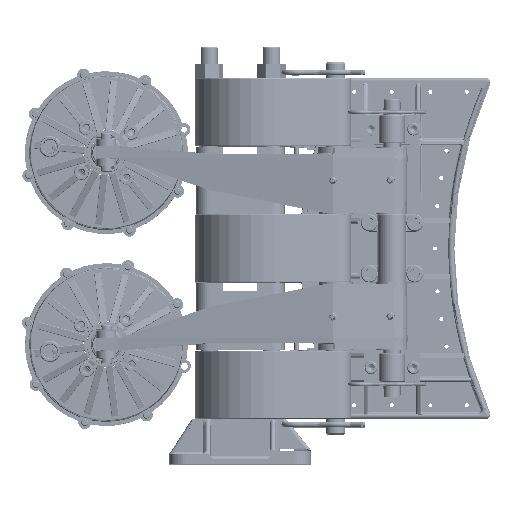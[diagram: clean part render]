
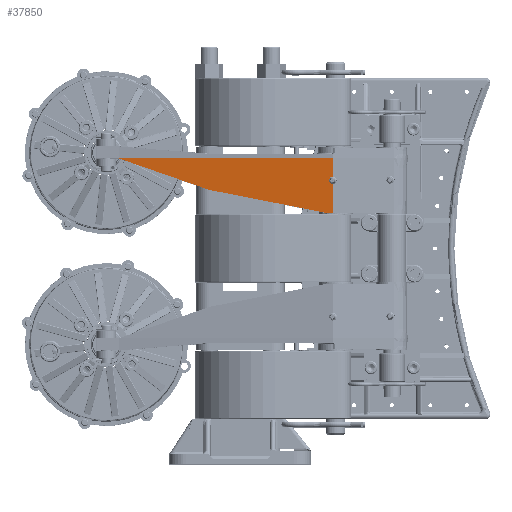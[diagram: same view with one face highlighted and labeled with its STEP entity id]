
A CAD part, top view. The second image highlights one B-rep face of the part: STEP entity #37850.
In plain terms, the highlighted planar face has unit normal (-0.164, -0.018, 0.986).
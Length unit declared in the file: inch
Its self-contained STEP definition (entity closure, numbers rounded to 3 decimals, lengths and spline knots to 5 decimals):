
#1063 = EDGE_CURVE ( 'NONE', #110728, #219061, #236602, .T. ) ;
#1322 = CARTESIAN_POINT ( 'NONE',  ( 1.45898, 3.9595, 5.492 ) ) ;
#4980 = VECTOR ( 'NONE', #71933, 39.37008 ) ;
#11524 = LINE ( 'NONE', #216772, #4980 ) ;
#17646 = CARTESIAN_POINT ( 'NONE',  ( 1.06417, 1.5595, 5.38392 ) ) ;
#17845 = VECTOR ( 'NONE', #64160, 39.37008 ) ;
#18387 = DIRECTION ( 'NONE',  ( 0.969, -0.191, 0.158 ) ) ;
#21629 = ORIENTED_EDGE ( 'NONE', *, *, #250783, .T. ) ;
#22584 = ORIENTED_EDGE ( 'NONE', *, *, #64817, .T. ) ;
#26031 = CARTESIAN_POINT ( 'NONE',  ( 0.69572, 0.94915, 5.31189 ) ) ;
#26621 = CARTESIAN_POINT ( 'NONE',  ( -7.96249, 3.9595, 3.92624 ) ) ;
#30825 = CARTESIAN_POINT ( 'NONE',  ( 1.45954, 2.88551, 5.47309 ) ) ;
#35826 = CARTESIAN_POINT ( 'NONE',  ( 1.06446, 1.57468, 5.38424 ) ) ;
#37850 = ADVANCED_FACE ( 'NONE', ( #44869 ), #157565, .F. ) ;
#43846 =( BOUNDED_CURVE ( )  B_SPLINE_CURVE ( 3, ( #68610, #89529, #173188, #48644 ),
 .UNSPECIFIED., .F., .F. ) 
 B_SPLINE_CURVE_WITH_KNOTS ( ( 4, 4 ),
 ( 1.3458, 4.46762 ),
 .UNSPECIFIED. ) 
 CURVE ( )  GEOMETRIC_REPRESENTATION_ITEM ( )  RATIONAL_B_SPLINE_CURVE ( ( 1., 0.34, 0.34, 1. ) ) 
 REPRESENTATION_ITEM ( '' )  );
#44869 = FACE_OUTER_BOUND ( 'NONE', #219265, .T. ) ;
#46393 = VERTEX_POINT ( 'NONE', #105967 ) ;
#48644 = CARTESIAN_POINT ( 'NONE',  ( 1.45954, 2.88551, 5.47309 ) ) ;
#52998 =( BOUNDED_CURVE ( )  B_SPLINE_CURVE ( 3, ( #139486, #160383, #35826, #181417 ),
 .UNSPECIFIED., .F., .F. ) 
 B_SPLINE_CURVE_WITH_KNOTS ( ( 4, 4 ),
 ( 2.47376, 2.47706 ),
 .UNSPECIFIED. ) 
 CURVE ( )  GEOMETRIC_REPRESENTATION_ITEM ( )  RATIONAL_B_SPLINE_CURVE ( ( 1., 1., 1., 1. ) ) 
 REPRESENTATION_ITEM ( '' )  );
#61200 = VERTEX_POINT ( 'NONE', #149196 ) ;
#63926 = ORIENTED_EDGE ( 'NONE', *, *, #195932, .F. ) ;
#64160 = DIRECTION ( 'NONE',  ( -0.001, 1., 0.018 ) ) ;
#64817 = EDGE_CURVE ( 'NONE', #230857, #46393, #239346, .T. ) ;
#68610 = CARTESIAN_POINT ( 'NONE',  ( 1.45943, 3.0985, 5.47684 ) ) ;
#71933 = DIRECTION ( 'NONE',  ( 0.986, 0., 0.164 ) ) ;
#73573 = CARTESIAN_POINT ( 'NONE',  ( 1.45898, 3.9595, 5.492 ) ) ;
#76569 = CARTESIAN_POINT ( 'NONE',  ( 1.45898, 3.9595, 5.492 ) ) ;
#79862 = DIRECTION ( 'NONE',  ( -0.986, 0., -0.164 ) ) ;
#84713 = CARTESIAN_POINT ( 'NONE',  ( 1.46023, 1.5595, 5.44974 ) ) ;
#89529 = CARTESIAN_POINT ( 'NONE',  ( 1.25285, 3.09666, 5.44247 ) ) ;
#96832 = VERTEX_POINT ( 'NONE', #166533 ) ;
#97522 = DIRECTION ( 'NONE',  ( 0.986, 0., 0.164 ) ) ;
#98268 = VECTOR ( 'NONE', #171482, 39.37008 ) ;
#104896 = VERTEX_POINT ( 'NONE', #17646 ) ;
#105967 = CARTESIAN_POINT ( 'NONE',  ( 1.45898, 3.9595, 5.492 ) ) ;
#110728 = VERTEX_POINT ( 'NONE', #84713 ) ;
#125717 = VECTOR ( 'NONE', #219300, 39.37008 ) ;
#129468 = AXIS2_PLACEMENT_3D ( 'NONE', #76569, #222329, #97522 ) ;
#131005 = VECTOR ( 'NONE', #79862, 39.37008 ) ;
#138283 = VECTOR ( 'NONE', #18387, 39.37008 ) ;
#139486 = CARTESIAN_POINT ( 'NONE',  ( 1.06417, 1.5595, 5.38392 ) ) ;
#148333 = CARTESIAN_POINT ( 'NONE',  ( 1.11111, 1.5731, 5.39196 ) ) ;
#149196 = CARTESIAN_POINT ( 'NONE',  ( 1.06461, 1.58225, 5.38439 ) ) ;
#155669 = ORIENTED_EDGE ( 'NONE', *, *, #220674, .F. ) ;
#157565 = PLANE ( 'NONE',  #129468 ) ;
#160383 = CARTESIAN_POINT ( 'NONE',  ( 1.06432, 1.5671, 5.38408 ) ) ;
#166533 = CARTESIAN_POINT ( 'NONE',  ( -3.97903, 2.5745, 4.56374 ) ) ;
#171273 = ORIENTED_EDGE ( 'NONE', *, *, #217941, .F. ) ;
#171482 = DIRECTION ( 'NONE',  ( -0.934, 0.325, -0.149 ) ) ;
#173188 = CARTESIAN_POINT ( 'NONE',  ( 1.25296, 2.8878, 5.4388 ) ) ;
#173714 = ORIENTED_EDGE ( 'NONE', *, *, #205988, .F. ) ;
#181417 = CARTESIAN_POINT ( 'NONE',  ( 1.06461, 1.58225, 5.38439 ) ) ;
#193654 = LINE ( 'NONE', #148333, #138283 ) ;
#195932 = EDGE_CURVE ( 'NONE', #104896, #61200, #52998, .T. ) ;
#204607 = CARTESIAN_POINT ( 'NONE',  ( 1.37908, 1.5595, 5.43625 ) ) ;
#205988 = EDGE_CURVE ( 'NONE', #110728, #104896, #241903, .T. ) ;
#209171 = LINE ( 'NONE', #26031, #98268 ) ;
#216772 = CARTESIAN_POINT ( 'NONE',  ( 1.45898, 3.9595, 5.492 ) ) ;
#217941 = EDGE_CURVE ( 'NONE', #230857, #219061, #43846, .T. ) ;
#219061 = VERTEX_POINT ( 'NONE', #30825 ) ;
#219265 = EDGE_LOOP ( 'NONE', ( #171273, #22584, #155669, #247618, #21629, #63926, #173714, #267670 ) ) ;
#219300 = DIRECTION ( 'NONE',  ( -0.001, 1., 0.018 ) ) ;
#220674 = EDGE_CURVE ( 'NONE', #223707, #46393, #11524, .T. ) ;
#222329 = DIRECTION ( 'NONE',  ( 0.164, 0.017, -0.986 ) ) ;
#223707 = VERTEX_POINT ( 'NONE', #26621 ) ;
#226569 = CARTESIAN_POINT ( 'NONE',  ( 1.45943, 3.0985, 5.47684 ) ) ;
#230857 = VERTEX_POINT ( 'NONE', #226569 ) ;
#236602 = LINE ( 'NONE', #73573, #125717 ) ;
#236941 = EDGE_CURVE ( 'NONE', #96832, #223707, #209171, .T. ) ;
#239346 = LINE ( 'NONE', #1322, #17845 ) ;
#241903 = LINE ( 'NONE', #204607, #131005 ) ;
#247618 = ORIENTED_EDGE ( 'NONE', *, *, #236941, .F. ) ;
#250783 = EDGE_CURVE ( 'NONE', #96832, #61200, #193654, .T. ) ;
#267670 = ORIENTED_EDGE ( 'NONE', *, *, #1063, .T. ) ;
